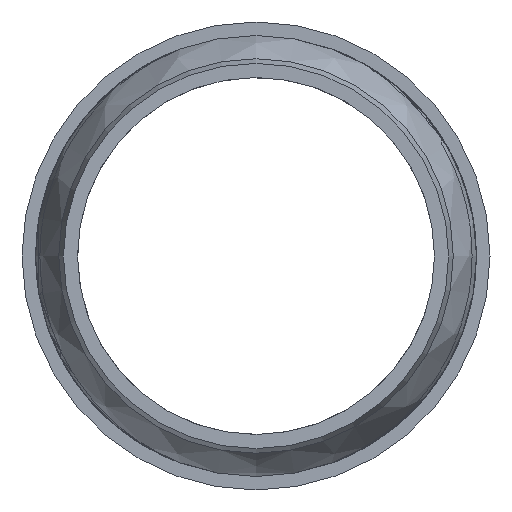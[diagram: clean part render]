
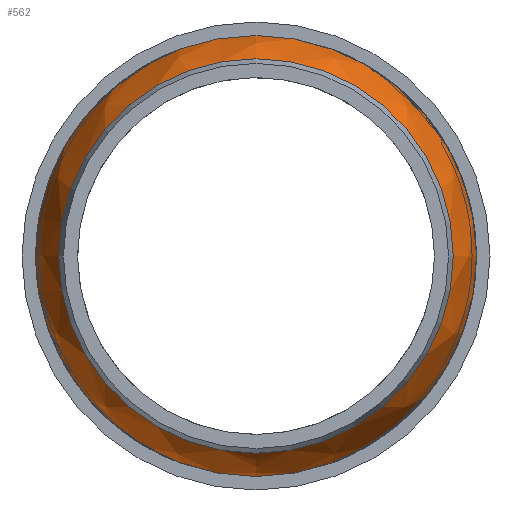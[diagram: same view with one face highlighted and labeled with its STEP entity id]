
A CAD part, left-side view. The second image highlights one B-rep face of the part: STEP entity #562.
In plain terms, the highlighted free-form (B-spline) face has degree [2, 2] with [3, 9] control points.
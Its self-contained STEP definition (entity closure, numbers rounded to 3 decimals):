
#11=(
BOUNDED_CURVE()
B_SPLINE_CURVE(2,(#2117,#2118,#2119),.UNSPECIFIED.,.F.,.F.)
B_SPLINE_CURVE_WITH_KNOTS((3,3),(0.109,0.66),
 .UNSPECIFIED.)
CURVE()
GEOMETRIC_REPRESENTATION_ITEM()
RATIONAL_B_SPLINE_CURVE((1.,0.962,1.))
REPRESENTATION_ITEM('')
);
#12=(
BOUNDED_SURFACE()
B_SPLINE_SURFACE(2,2,((#2090,#2091,#2092,#2093,#2094,#2095,#2096,#2097,
#2098),(#2099,#2100,#2101,#2102,#2103,#2104,#2105,#2106,#2107),(#2108,#2109,
#2110,#2111,#2112,#2113,#2114,#2115,#2116)),.UNSPECIFIED.,.F.,.T.,.F.)
B_SPLINE_SURFACE_WITH_KNOTS((3,3),(3,2,2,2,3),(-0.66,-0.109),
(-3.142,-1.571,0.,1.571,3.142),
 .UNSPECIFIED.)
GEOMETRIC_REPRESENTATION_ITEM()
RATIONAL_B_SPLINE_SURFACE(((1.,0.707,1.,0.707,1.,
0.707,1.,0.707,1.),(0.962,0.68,
0.962,0.68,0.962,0.68,
0.962,0.68,0.962),(1.,0.707,
1.,0.707,1.,0.707,1.,0.707,1.)))
REPRESENTATION_ITEM('')
SURFACE()
);
#147=FACE_OUTER_BOUND('',#207,.T.);
#207=EDGE_LOOP('',(#468,#469,#470,#471,#472,#473,#474));
#233=CIRCLE('',#603,50.4);
#234=CIRCLE('',#604,50.4);
#235=CIRCLE('',#605,50.4);
#241=CIRCLE('',#624,45.1);
#242=CIRCLE('',#625,45.1);
#275=VERTEX_POINT('',#1401);
#284=VERTEX_POINT('',#1813);
#285=VERTEX_POINT('',#1814);
#296=VERTEX_POINT('',#2086);
#297=VERTEX_POINT('',#2087);
#343=EDGE_CURVE('',#284,#285,#233,.T.);
#344=EDGE_CURVE('',#285,#275,#234,.T.);
#345=EDGE_CURVE('',#275,#284,#235,.T.);
#357=EDGE_CURVE('',#296,#297,#241,.T.);
#358=EDGE_CURVE('',#297,#296,#242,.T.);
#359=EDGE_CURVE('',#285,#297,#11,.T.);
#468=ORIENTED_EDGE('',*,*,#343,.F.);
#469=ORIENTED_EDGE('',*,*,#345,.F.);
#470=ORIENTED_EDGE('',*,*,#344,.F.);
#471=ORIENTED_EDGE('',*,*,#359,.T.);
#472=ORIENTED_EDGE('',*,*,#358,.T.);
#473=ORIENTED_EDGE('',*,*,#357,.T.);
#474=ORIENTED_EDGE('',*,*,#359,.F.);
#562=ADVANCED_FACE('',(#147),#12,.F.);
#603=AXIS2_PLACEMENT_3D('',#1815,#697,#698);
#604=AXIS2_PLACEMENT_3D('',#1816,#699,#700);
#605=AXIS2_PLACEMENT_3D('',#1817,#701,#702);
#624=AXIS2_PLACEMENT_3D('',#2088,#739,#740);
#625=AXIS2_PLACEMENT_3D('',#2089,#741,#742);
#697=DIRECTION('center_axis',(1.,0.,0.));
#698=DIRECTION('ref_axis',(0.,0.,
1.));
#699=DIRECTION('center_axis',(1.,0.,0.));
#700=DIRECTION('ref_axis',(0.,0.,
1.));
#701=DIRECTION('center_axis',(1.,0.,0.));
#702=DIRECTION('ref_axis',(0.,0.,
1.));
#739=DIRECTION('center_axis',(1.,0.,0.));
#740=DIRECTION('ref_axis',(0.,0.,
1.));
#741=DIRECTION('center_axis',(1.,0.,0.));
#742=DIRECTION('ref_axis',(0.,0.,
1.));
#1401=CARTESIAN_POINT('',(1009.4,50.4,0.));
#1813=CARTESIAN_POINT('',(1009.4,-50.4,0.));
#1814=CARTESIAN_POINT('',(1009.4,0.,-50.4));
#1815=CARTESIAN_POINT('Origin',(1009.4,0.,
0.));
#1816=CARTESIAN_POINT('Origin',(1009.4,0.,
0.));
#1817=CARTESIAN_POINT('Origin',(1009.4,0.,
0.));
#2086=CARTESIAN_POINT('',(996.3,-45.1,0.));
#2087=CARTESIAN_POINT('',(996.3,0.,-45.1));
#2088=CARTESIAN_POINT('Origin',(996.3,0.,
0.));
#2089=CARTESIAN_POINT('Origin',(996.3,0.,
0.));
#2090=CARTESIAN_POINT('Ctrl Pts',(996.3,0.,
-45.1));
#2091=CARTESIAN_POINT('Ctrl Pts',(996.3,45.1,-45.1));
#2092=CARTESIAN_POINT('Ctrl Pts',(996.3,45.1,0.));
#2093=CARTESIAN_POINT('Ctrl Pts',(996.3,45.1,45.1));
#2094=CARTESIAN_POINT('Ctrl Pts',(996.3,0.,
45.1));
#2095=CARTESIAN_POINT('Ctrl Pts',(996.3,-45.1,45.1));
#2096=CARTESIAN_POINT('Ctrl Pts',(996.3,-45.1,0.));
#2097=CARTESIAN_POINT('Ctrl Pts',(996.3,-45.1,-45.1));
#2098=CARTESIAN_POINT('Ctrl Pts',(996.3,0.,
-45.1));
#2099=CARTESIAN_POINT('Ctrl Pts',(1002.102,0.,
-49.6));
#2100=CARTESIAN_POINT('Ctrl Pts',(1002.102,49.6,-49.6));
#2101=CARTESIAN_POINT('Ctrl Pts',(1002.102,49.6,0.));
#2102=CARTESIAN_POINT('Ctrl Pts',(1002.102,49.6,49.6));
#2103=CARTESIAN_POINT('Ctrl Pts',(1002.102,0.,
49.6));
#2104=CARTESIAN_POINT('Ctrl Pts',(1002.102,-49.6,49.6));
#2105=CARTESIAN_POINT('Ctrl Pts',(1002.102,-49.6,0.));
#2106=CARTESIAN_POINT('Ctrl Pts',(1002.102,-49.6,-49.6));
#2107=CARTESIAN_POINT('Ctrl Pts',(1002.102,0.,
-49.6));
#2108=CARTESIAN_POINT('Ctrl Pts',(1009.4,0.,
-50.4));
#2109=CARTESIAN_POINT('Ctrl Pts',(1009.4,50.4,-50.4));
#2110=CARTESIAN_POINT('Ctrl Pts',(1009.4,50.4,0.));
#2111=CARTESIAN_POINT('Ctrl Pts',(1009.4,50.4,50.4));
#2112=CARTESIAN_POINT('Ctrl Pts',(1009.4,0.,
50.4));
#2113=CARTESIAN_POINT('Ctrl Pts',(1009.4,-50.4,50.4));
#2114=CARTESIAN_POINT('Ctrl Pts',(1009.4,-50.4,0.));
#2115=CARTESIAN_POINT('Ctrl Pts',(1009.4,-50.4,-50.4));
#2116=CARTESIAN_POINT('Ctrl Pts',(1009.4,0.,
-50.4));
#2117=CARTESIAN_POINT('Ctrl Pts',(1009.4,0.,
-50.4));
#2118=CARTESIAN_POINT('Ctrl Pts',(1002.102,0.,
-49.6));
#2119=CARTESIAN_POINT('Ctrl Pts',(996.3,0.,
-45.1));
